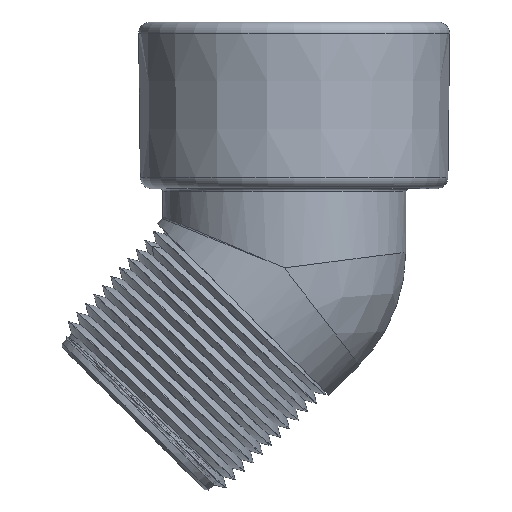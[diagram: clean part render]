
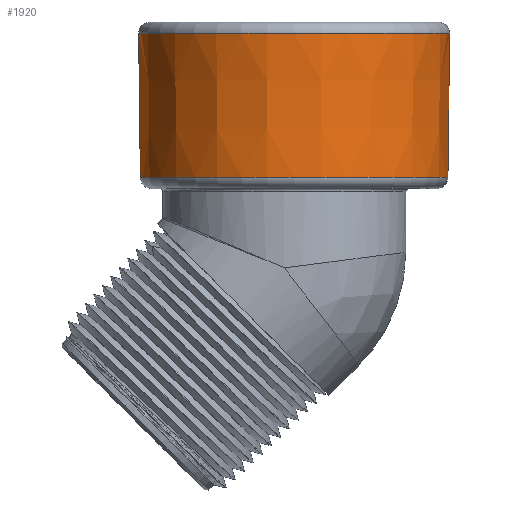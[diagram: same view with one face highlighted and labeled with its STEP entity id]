
A CAD part, top view. The second image highlights one B-rep face of the part: STEP entity #1920.
In plain terms, the highlighted conical face has half-angle 0.676 degrees and reference radius 27.575 mm.
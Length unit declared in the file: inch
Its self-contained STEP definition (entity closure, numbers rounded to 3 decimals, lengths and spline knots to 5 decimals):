
#66=CONICAL_SURFACE('',#1983,1.08562,0.012);
#352=CIRCLE('',#1982,1.09158);
#353=CIRCLE('',#1984,1.07966);
#558=VERTEX_POINT('',#48462);
#559=VERTEX_POINT('',#48464);
#560=VERTEX_POINT('',#48469);
#561=VERTEX_POINT('',#48471);
#616=VECTOR('',#2150,1.);
#617=VECTOR('',#2153,1.);
#672=LINE('',#48468,#616);
#673=LINE('',#48472,#617);
#973=EDGE_CURVE('',#559,#558,#352,.T.);
#974=EDGE_CURVE('',#559,#560,#672,.T.);
#975=EDGE_CURVE('',#561,#560,#353,.F.);
#976=EDGE_CURVE('',#558,#561,#673,.T.);
#1572=ORIENTED_EDGE('',*,*,#974,.T.);
#1573=ORIENTED_EDGE('',*,*,#975,.F.);
#1574=ORIENTED_EDGE('',*,*,#976,.F.);
#1575=ORIENTED_EDGE('',*,*,#973,.F.);
#1700=EDGE_LOOP('',(#1572,#1573,#1574,#1575));
#1813=FACE_BOUND('',#1700,.T.);
#1920=ADVANCED_FACE('',(#1813),#66,.T.);
#1982=AXIS2_PLACEMENT_3D('',#48466,#2146,#2147);
#1983=AXIS2_PLACEMENT_3D('',#48467,#2148,#2149);
#1984=AXIS2_PLACEMENT_3D('',#48470,#2151,#2152);
#2146=DIRECTION('',(0.,1.,0.));
#2147=DIRECTION('',(1.092,0.,0.));
#2148=DIRECTION('',(0.,1.,0.));
#2149=DIRECTION('',(1.086,0.,0.));
#2150=DIRECTION('',(0.012,-1.,0.));
#2151=DIRECTION('',(0.,1.,0.));
#2152=DIRECTION('',(1.08,0.,0.));
#2153=DIRECTION('',(-0.012,-1.,0.));
#48462=CARTESIAN_POINT('',(1.09158,1.08844,0.));
#48464=CARTESIAN_POINT('',(-1.09158,1.08844,0.));
#48466=CARTESIAN_POINT('',(0.,1.08844,0.));
#48467=CARTESIAN_POINT('',(0.,0.58313,0.));
#48468=CARTESIAN_POINT('',(-1.09158,1.08844,0.));
#48469=CARTESIAN_POINT('',(-1.07966,0.07781,0.));
#48470=CARTESIAN_POINT('',(0.,0.07781,0.));
#48471=CARTESIAN_POINT('',(1.07966,0.07781,0.));
#48472=CARTESIAN_POINT('',(1.09158,1.08844,0.));
